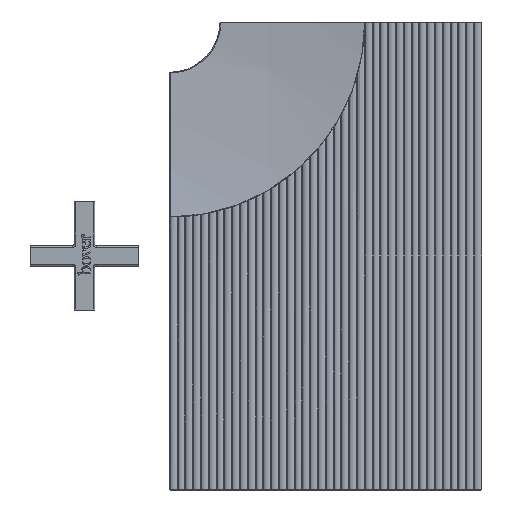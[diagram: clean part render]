
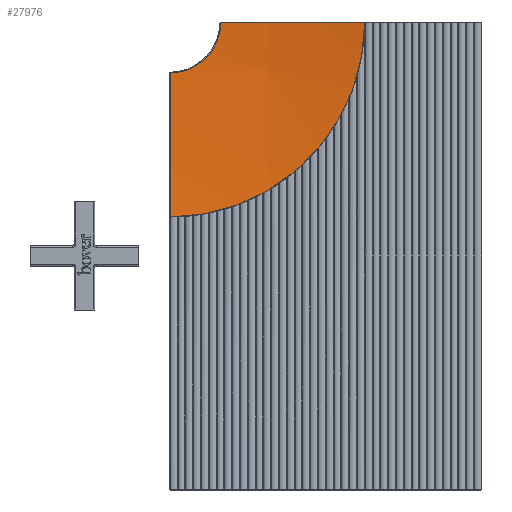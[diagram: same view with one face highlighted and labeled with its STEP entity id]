
A CAD part, front view. The second image highlights one B-rep face of the part: STEP entity #27976.
In plain terms, the highlighted spherical face has radius 715.727 mm.
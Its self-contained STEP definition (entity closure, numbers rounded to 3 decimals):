
#1578 = CARTESIAN_POINT ( 'NONE',  ( -87.731, 4.749, -119.655 ) ) ;
#2193 = CARTESIAN_POINT ( 'NONE',  ( -99.5, 719.727, -150.003 ) ) ;
#2439 = CARTESIAN_POINT ( 'NONE',  ( -99.5, 15., -25.005 ) ) ;
#4360 = CARTESIAN_POINT ( 'NONE',  ( -67.277, 4.749, -149.5 ) ) ;
#4564 = CARTESIAN_POINT ( 'NONE',  ( -83.475, 4.749, -121.673 ) ) ;
#4765 = CARTESIAN_POINT ( 'NONE',  ( -89.213, 4.749, -119.097 ) ) ;
#6716 = CARTESIAN_POINT ( 'NONE',  ( -100., 15., -150.003 ) ) ;
#7544 = CARTESIAN_POINT ( 'NONE',  ( -81.3, 4.749, -123.136 ) ) ;
#7744 = CARTESIAN_POINT ( 'NONE',  ( -70.732, 4.749, -135.317 ) ) ;
#9790 = AXIS2_PLACEMENT_3D ( 'NONE', #2193, #14350, #22750 ) ;
#10548 = CARTESIAN_POINT ( 'NONE',  ( -71.484, 4.749, -133.932 ) ) ;
#10942 = CARTESIAN_POINT ( 'NONE',  ( -68.483, 4.749, -141.169 ) ) ;
#11129 = CARTESIAN_POINT ( 'NONE',  ( -69.101, 4.749, -139.164 ) ) ;
#11172 = EDGE_CURVE ( 'NONE', #26560, #30227, #21885, .T. ) ;
#12115 = CARTESIAN_POINT ( 'NONE',  ( -92.239, 4.749, -118.189 ) ) ;
#13018 = EDGE_CURVE ( 'NONE', #30747, #26560, #29054, .T. ) ;
#14055 = AXIS2_PLACEMENT_3D ( 'NONE', #34391, #15724, #18916 ) ;
#14127 = CARTESIAN_POINT ( 'NONE',  ( -67.309, 4.749, -147.385 ) ) ;
#14350 = DIRECTION ( 'NONE',  ( -1., 0., 0. ) ) ;
#14910 = CARTESIAN_POINT ( 'NONE',  ( -89.715, 4.749, -118.926 ) ) ;
#15231 = AXIS2_PLACEMENT_3D ( 'NONE', #25745, #20547, #32259 ) ;
#15724 = DIRECTION ( 'NONE',  ( 0., 0., -1. ) ) ;
#16545 = CARTESIAN_POINT ( 'NONE',  ( -77.607, 4.749, -126.111 ) ) ;
#16742 = CARTESIAN_POINT ( 'NONE',  ( -85.312, 4.749, -120.678 ) ) ;
#16754 = CARTESIAN_POINT ( 'NONE',  ( 24.998, 15., -149.5 ) ) ;
#17371 = SPHERICAL_SURFACE ( 'NONE', #15231, 715.727 ) ;
#18421 = VERTEX_POINT ( 'NONE', #16754 ) ;
#18495 = DIRECTION ( 'NONE',  ( 0., 0., 1. ) ) ;
#18916 = DIRECTION ( 'NONE',  ( -1., 0., 0. ) ) ;
#19924 = CARTESIAN_POINT ( 'NONE',  ( -74.055, 4.749, -129.941 ) ) ;
#20547 = DIRECTION ( 'NONE',  ( 1., 0., 0. ) ) ;
#21885 = CIRCLE ( 'NONE', #9790, 715.727 ) ;
#21996 = ORIENTED_EDGE ( 'NONE', *, *, #13018, .T. ) ;
#22714 = CARTESIAN_POINT ( 'NONE',  ( -80.026, 4.749, -124.07 ) ) ;
#22750 = DIRECTION ( 'NONE',  ( 0., 0., 1. ) ) ;
#22916 = CARTESIAN_POINT ( 'NONE',  ( -71.746, 4.749, -133.475 ) ) ;
#23302 = CARTESIAN_POINT ( 'NONE',  ( -72.295, 4.749, -132.571 ) ) ;
#23648 = EDGE_CURVE ( 'NONE', #18421, #30747, #24909, .T. ) ;
#23881 = CARTESIAN_POINT ( 'NONE',  ( -95.307, 4.749, -117.544 ) ) ;
#24909 = CIRCLE ( 'NONE', #14055, 715.727 ) ;
#25692 = CARTESIAN_POINT ( 'NONE',  ( -67.544, 4.749, -145.292 ) ) ;
#25745 = CARTESIAN_POINT ( 'NONE',  ( -100., 719.727, -150.003 ) ) ;
#25880 = CARTESIAN_POINT ( 'NONE',  ( -68.092, 4.749, -142.704 ) ) ;
#26262 = CARTESIAN_POINT ( 'NONE',  ( -68.628, 4.749, -140.664 ) ) ;
#26502 = FACE_OUTER_BOUND ( 'NONE', #30684, .T. ) ;
#26560 = VERTEX_POINT ( 'NONE', #29292 ) ;
#27133 = AXIS2_PLACEMENT_3D ( 'NONE', #6716, #33776, #18495 ) ;
#27878 = CARTESIAN_POINT ( 'NONE',  ( -67.277, 4.749, -149.5 ) ) ;
#27976 = ADVANCED_FACE ( 'NONE', ( #26502 ), #17371, .F. ) ;
#28667 = CARTESIAN_POINT ( 'NONE',  ( -70.278, 4.749, -136.26 ) ) ;
#29054 = B_SPLINE_CURVE_WITH_KNOTS ( 'NONE', 3,
 ( #4360, #14127, #25692, #25880, #37982, #10942, #26262, #11129, #29420, #28667, #7744, #10548, #22916, #23302, #35386, #19924, #31627, #16545, #32025, #37793, #22714, #34805, #7544, #4564, #16742, #1578, #35003, #4765, #14910, #29819, #12115, #23881, #30202, #35581 ),
 .UNSPECIFIED., .F., .F.,
 ( 4, 2, 2, 2, 2, 2, 2, 2, 2, 2, 2, 2, 2, 2, 2, 2, 4 ),
 ( 0., 0.007, 0.008, 0.01, 0.013, 0.016, 0.018, 0.019, 0.026, 0.029, 0.031, 0.032, 0.038, 0.04, 0.042, 0.045, 0.051 ),
 .UNSPECIFIED. ) ;
#29292 = CARTESIAN_POINT ( 'NONE',  ( -99.5, 4.749, -117.277 ) ) ;
#29420 = CARTESIAN_POINT ( 'NONE',  ( -69.463, 4.749, -138.184 ) ) ;
#29819 = CARTESIAN_POINT ( 'NONE',  ( -91.224, 4.749, -118.454 ) ) ;
#30202 = CARTESIAN_POINT ( 'NONE',  ( -97.387, 4.749, -117.309 ) ) ;
#30227 = VERTEX_POINT ( 'NONE', #2439 ) ;
#30684 = EDGE_LOOP ( 'NONE', ( #21996, #33926, #38132, #36790 ) ) ;
#30747 = VERTEX_POINT ( 'NONE', #27878 ) ;
#31627 = CARTESIAN_POINT ( 'NONE',  ( -75.386, 4.749, -128.329 ) ) ;
#32025 = CARTESIAN_POINT ( 'NONE',  ( -78.384, 4.749, -125.404 ) ) ;
#32259 = DIRECTION ( 'NONE',  ( 0., 0., 1. ) ) ;
#33658 = EDGE_CURVE ( 'NONE', #30227, #18421, #36645, .T. ) ;
#33776 = DIRECTION ( 'NONE',  ( 0., 1., 0. ) ) ;
#33926 = ORIENTED_EDGE ( 'NONE', *, *, #11172, .T. ) ;
#34391 = CARTESIAN_POINT ( 'NONE',  ( -100., 719.727, -149.5 ) ) ;
#34805 = CARTESIAN_POINT ( 'NONE',  ( -80.871, 4.749, -123.44 ) ) ;
#35003 = CARTESIAN_POINT ( 'NONE',  ( -88.221, 4.749, -119.462 ) ) ;
#35386 = CARTESIAN_POINT ( 'NONE',  ( -72.581, 4.749, -132.125 ) ) ;
#35581 = CARTESIAN_POINT ( 'NONE',  ( -99.5, 4.749, -117.277 ) ) ;
#36645 = CIRCLE ( 'NONE', #27133, 124.999 ) ;
#36790 = ORIENTED_EDGE ( 'NONE', *, *, #23648, .T. ) ;
#37793 = CARTESIAN_POINT ( 'NONE',  ( -79.609, 4.749, -124.397 ) ) ;
#37982 = CARTESIAN_POINT ( 'NONE',  ( -68.215, 4.749, -142.188 ) ) ;
#38132 = ORIENTED_EDGE ( 'NONE', *, *, #33658, .T. ) ;
